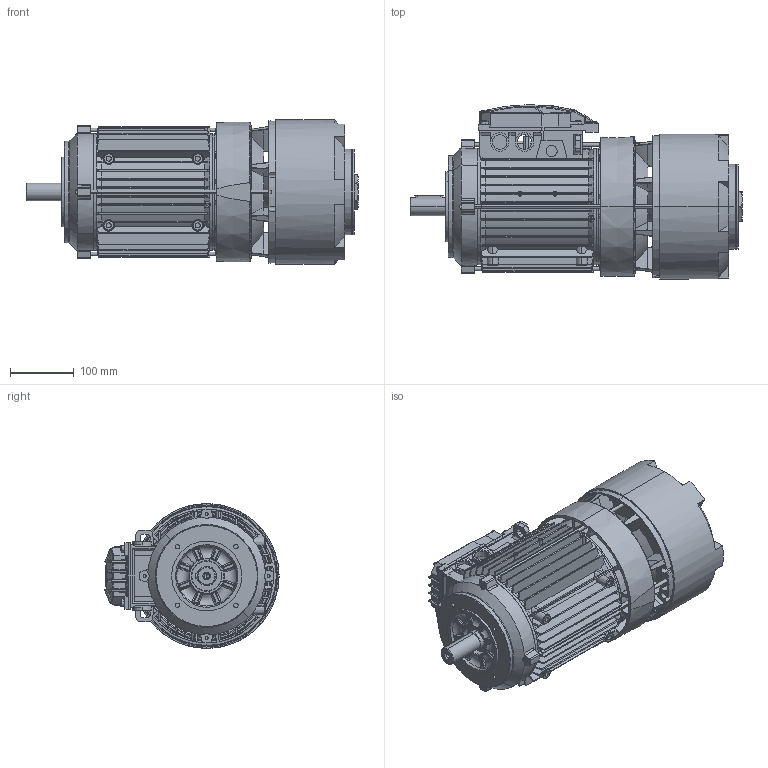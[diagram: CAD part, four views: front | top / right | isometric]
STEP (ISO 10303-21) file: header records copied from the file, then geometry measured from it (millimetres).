
FILE_DESCRIPTION (( 'STEP AP214' ), '1' );
FILE_NAME ('M08HC0012.STEP', '2024-05-30T07:56:39', ( '' ), ( '' ), 'SwSTEP 2.0', 'SolidWorks 2023', '' );
FILE_SCHEMA (( 'AUTOMOTIVE_DESIGN' ));
Length unit declared in the file: millimetre
Products named in the file (14): Scudo Lato Freno BA 112 P1 - DFAE0094; Scudo a Flangia B14 112 - DFAC0194 LAVORATO; Cuffia BAH 112 - DFEI0018; Assieme coperchio scatola DI 100-112; Albero BA 112; Coperchio 100-112 DI; Convogliatore con pista di attrito P2 BAH 112; M08HC0012; Tappo a testa Esagonale M40x1,5; Chiavetta 100-112; Carcassa 112 B5 - DI; Vite per coperchio morsettiera; Tirante BA 112 - DBA60094; Guarnizione Coperchio scatola 100-112 DI
Assembly tree (19 placements, depth 3):
  M08HC0012
    Carcassa 112 B5 - DI
    Scudo a Flangia B14 112 - DFAC0194 LAVORATO
    Convogliatore con pista di attrito P2 BAH 112
    Scudo Lato Freno BA 112 P1 - DFAE0094
    Cuffia BAH 112 - DFEI0018
    Tappo a testa Esagonale M40x1,5
    Albero BA 112
    Chiavetta 100-112
    Assieme coperchio scatola DI 100-112
      Coperchio 100-112 DI
      Guarnizione Coperchio scatola 100-112 DI
      Vite per coperchio morsettiera  x4
    Tirante BA 112 - DBA60094  x4
Bounding box: 522 x 273.69 x 227.5 mm (x, y, z)
Volume: 3100700.5 mm3; surface area: 1371305.5 mm2
Topology: 22 solids, 22 shells, 3927 faces, 10353 edges, 6505 vertices
Faces by surface type: plane 1485, cylinder 798, bspline 741, cone 490, torus 383, sphere 30
Entity records: 178676 total; most frequent: CARTESIAN_POINT 77107, ORIENTED_EDGE 19424, DIRECTION 15260, EDGE_CURVE 9712, VERTEX_POINT 6167, AXIS2_PLACEMENT_3D 5592, LINE 4076, VECTOR 4076
